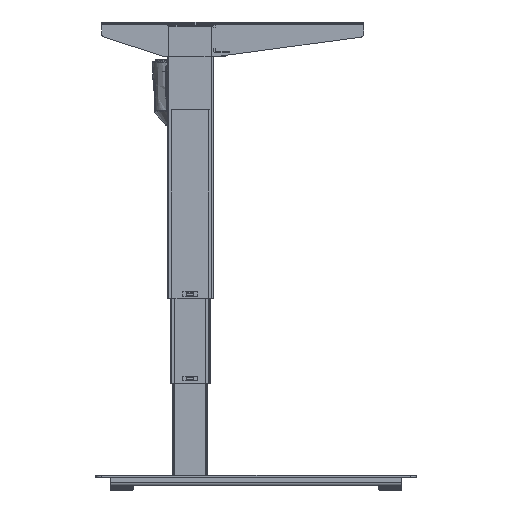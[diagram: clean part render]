
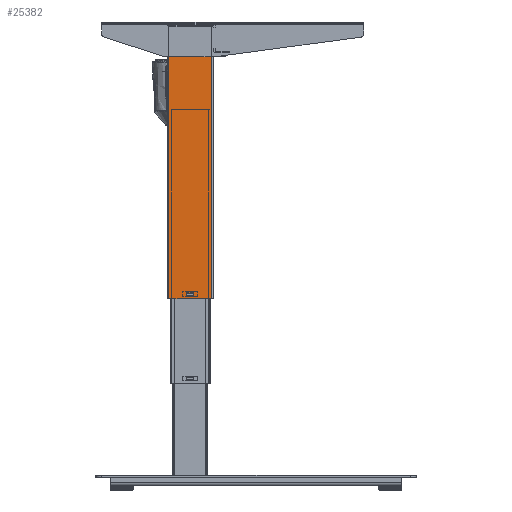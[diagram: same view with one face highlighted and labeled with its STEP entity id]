
A CAD part, left-side view. The second image highlights one B-rep face of the part: STEP entity #25382.
In plain terms, the highlighted planar face has unit normal (-1, 0, 0).
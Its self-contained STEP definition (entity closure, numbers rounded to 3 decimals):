
#33 = LINE ( 'NONE', #9870, #31716 ) ;
#875 = VERTEX_POINT ( 'NONE', #20417 ) ;
#1632 = CARTESIAN_POINT ( 'NONE',  ( -30., 6., 10. ) ) ;
#2096 = DIRECTION ( 'NONE',  ( 1., 0., 0. ) ) ;
#2799 = CARTESIAN_POINT ( 'NONE',  ( -30., 37., 480. ) ) ;
#3497 = FACE_BOUND ( 'NONE', #44565, .T. ) ;
#5360 = DIRECTION ( 'NONE',  ( 0., -1., 0. ) ) ;
#7167 = EDGE_CURVE ( 'NONE', #16352, #60251, #46834, .T. ) ;
#8021 = CARTESIAN_POINT ( 'NONE',  ( -30., 6., 6. ) ) ;
#8394 = CARTESIAN_POINT ( 'NONE',  ( -30., -6., 10. ) ) ;
#9483 = CARTESIAN_POINT ( 'NONE',  ( -30., -37., 0. ) ) ;
#9870 = CARTESIAN_POINT ( 'NONE',  ( -30., -37., 480. ) ) ;
#10176 = VECTOR ( 'NONE', #41996, 1000. ) ;
#15350 = DIRECTION ( 'NONE',  ( 0., 0., -1. ) ) ;
#16352 = VERTEX_POINT ( 'NONE', #61885 ) ;
#17799 = DIRECTION ( 'NONE',  ( 0., -1., 0. ) ) ;
#19427 = VECTOR ( 'NONE', #46657, 1000. ) ;
#19739 = ORIENTED_EDGE ( 'NONE', *, *, #41320, .T. ) ;
#19870 = DIRECTION ( 'NONE',  ( 0., 1., 0. ) ) ;
#20417 = CARTESIAN_POINT ( 'NONE',  ( -30., 37., 475. ) ) ;
#20595 = LINE ( 'NONE', #61143, #50623 ) ;
#23510 = CARTESIAN_POINT ( 'NONE',  ( -30., 37., 0. ) ) ;
#25382 = ADVANCED_FACE ( 'NONE', ( #3497, #60001 ), #62129, .F. ) ;
#25870 = AXIS2_PLACEMENT_3D ( 'NONE', #2799, #2096, #56873 ) ;
#26962 = ORIENTED_EDGE ( 'NONE', *, *, #51827, .T. ) ;
#28459 = VECTOR ( 'NONE', #67238, 1000. ) ;
#28704 = EDGE_LOOP ( 'NONE', ( #55588, #26962, #55666, #19739 ) ) ;
#28892 = VERTEX_POINT ( 'NONE', #63936 ) ;
#30247 = VERTEX_POINT ( 'NONE', #9483 ) ;
#30688 = VECTOR ( 'NONE', #63498, 1000. ) ;
#31064 = VERTEX_POINT ( 'NONE', #1632 ) ;
#31716 = VECTOR ( 'NONE', #15350, 1000. ) ;
#34639 = CARTESIAN_POINT ( 'NONE',  ( -30., 6., 10. ) ) ;
#35351 = ORIENTED_EDGE ( 'NONE', *, *, #7167, .T. ) ;
#35697 = CARTESIAN_POINT ( 'NONE',  ( -30., -6., 6. ) ) ;
#36480 = LINE ( 'NONE', #53485, #64709 ) ;
#38684 = EDGE_CURVE ( 'NONE', #60251, #28892, #55594, .T. ) ;
#41320 = EDGE_CURVE ( 'NONE', #58139, #30247, #36480, .T. ) ;
#41896 = CARTESIAN_POINT ( 'NONE',  ( -30., -40., 475. ) ) ;
#41996 = DIRECTION ( 'NONE',  ( 0., 0., -1. ) ) ;
#42156 = LINE ( 'NONE', #34639, #28459 ) ;
#44354 = CARTESIAN_POINT ( 'NONE',  ( -30., -37., 475. ) ) ;
#44565 = EDGE_LOOP ( 'NONE', ( #67334, #48109, #35351, #47028 ) ) ;
#45981 = VERTEX_POINT ( 'NONE', #44354 ) ;
#46657 = DIRECTION ( 'NONE',  ( 0., 0., -1. ) ) ;
#46834 = LINE ( 'NONE', #8394, #19427 ) ;
#47028 = ORIENTED_EDGE ( 'NONE', *, *, #38684, .T. ) ;
#48109 = ORIENTED_EDGE ( 'NONE', *, *, #63868, .T. ) ;
#50623 = VECTOR ( 'NONE', #17799, 1000. ) ;
#51827 = EDGE_CURVE ( 'NONE', #45981, #875, #60300, .T. ) ;
#52469 = EDGE_CURVE ( 'NONE', #28892, #31064, #42156, .T. ) ;
#53275 = CARTESIAN_POINT ( 'NONE',  ( -30., 37., 480. ) ) ;
#53485 = CARTESIAN_POINT ( 'NONE',  ( -30., 37., 0. ) ) ;
#55588 = ORIENTED_EDGE ( 'NONE', *, *, #64079, .F. ) ;
#55594 = LINE ( 'NONE', #8021, #30688 ) ;
#55666 = ORIENTED_EDGE ( 'NONE', *, *, #55804, .T. ) ;
#55804 = EDGE_CURVE ( 'NONE', #875, #58139, #59015, .T. ) ;
#56873 = DIRECTION ( 'NONE',  ( 0., 1., 0. ) ) ;
#58139 = VERTEX_POINT ( 'NONE', #23510 ) ;
#58532 = VECTOR ( 'NONE', #19870, 1000. ) ;
#59015 = LINE ( 'NONE', #53275, #10176 ) ;
#60001 = FACE_OUTER_BOUND ( 'NONE', #28704, .T. ) ;
#60251 = VERTEX_POINT ( 'NONE', #35697 ) ;
#60300 = LINE ( 'NONE', #41896, #58532 ) ;
#61143 = CARTESIAN_POINT ( 'NONE',  ( -30., 6., 10. ) ) ;
#61885 = CARTESIAN_POINT ( 'NONE',  ( -30., -6., 10. ) ) ;
#62129 = PLANE ( 'NONE',  #25870 ) ;
#63498 = DIRECTION ( 'NONE',  ( 0., 1., 0. ) ) ;
#63868 = EDGE_CURVE ( 'NONE', #31064, #16352, #20595, .T. ) ;
#63936 = CARTESIAN_POINT ( 'NONE',  ( -30., 6., 6. ) ) ;
#64079 = EDGE_CURVE ( 'NONE', #45981, #30247, #33, .T. ) ;
#64709 = VECTOR ( 'NONE', #5360, 1000. ) ;
#67238 = DIRECTION ( 'NONE',  ( 0., 0., 1. ) ) ;
#67334 = ORIENTED_EDGE ( 'NONE', *, *, #52469, .T. ) ;
